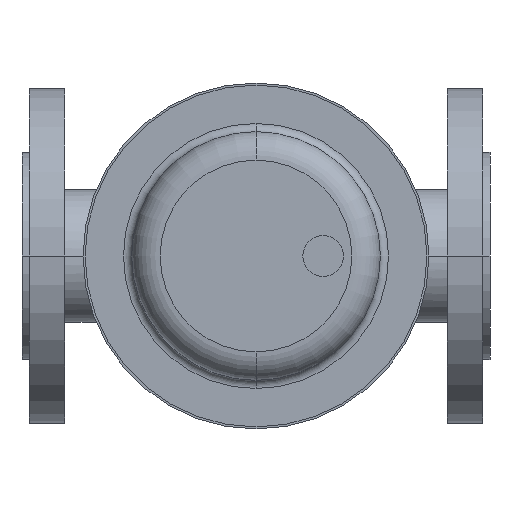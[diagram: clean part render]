
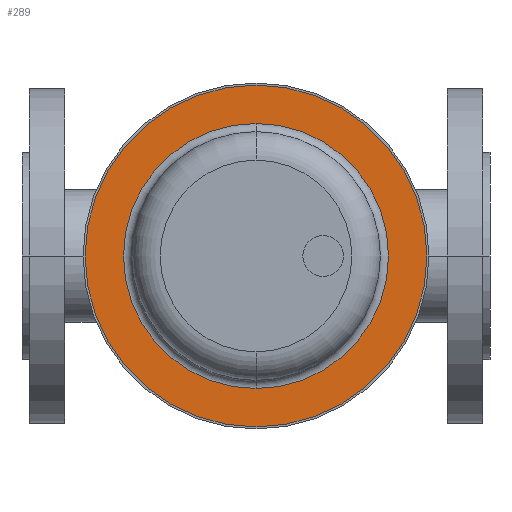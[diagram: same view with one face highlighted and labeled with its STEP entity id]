
A CAD part, front view. The second image highlights one B-rep face of the part: STEP entity #289.
In plain terms, the highlighted planar face has unit normal (0, -1, 0).
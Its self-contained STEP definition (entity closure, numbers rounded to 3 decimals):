
#289 = ADVANCED_FACE( '', ( #671, #672 ), #673, .T. );
#671 = FACE_OUTER_BOUND( '', #1070, .T. );
#672 = FACE_BOUND( '', #1071, .T. );
#673 = PLANE( '', #1072 );
#1070 = EDGE_LOOP( '', ( #2389, #2390 ) );
#1071 = EDGE_LOOP( '', ( #2391, #2392, #2393 ) );
#1072 = AXIS2_PLACEMENT_3D( '', #2394, #2395, #2396 );
#2389 = ORIENTED_EDGE( '', *, *, #2868, .F. );
#2390 = ORIENTED_EDGE( '', *, *, #2897, .F. );
#2391 = ORIENTED_EDGE( '', *, *, #2895, .T. );
#2392 = ORIENTED_EDGE( '', *, *, #2875, .T. );
#2393 = ORIENTED_EDGE( '', *, *, #2896, .T. );
#2394 = CARTESIAN_POINT( '', ( 189.563, -444.5, 0. ) );
#2395 = DIRECTION( '', ( 0., -1., 0. ) );
#2396 = DIRECTION( '', ( -1., 0., 0. ) );
#2868 = EDGE_CURVE( '', #3542, #3545, #3546, .T. );
#2875 = EDGE_CURVE( '', #3551, #3557, #3559, .T. );
#2895 = EDGE_CURVE( '', #3591, #3551, #3592, .T. );
#2896 = EDGE_CURVE( '', #3557, #3591, #3593, .T. );
#2897 = EDGE_CURVE( '', #3545, #3542, #3594, .T. );
#3542 = VERTEX_POINT( '', #4864 );
#3545 = VERTEX_POINT( '', #4868 );
#3546 = CIRCLE( '', #4869, 84. );
#3551 = VERTEX_POINT( '', #4875 );
#3557 = VERTEX_POINT( '', #4881 );
#3559 = CIRCLE( '', #4883, 65.125 );
#3591 = VERTEX_POINT( '', #4919 );
#3592 = CIRCLE( '', #4920, 65.125 );
#3593 = CIRCLE( '', #4921, 65.125 );
#3594 = CIRCLE( '', #4922, 84. );
#4864 = CARTESIAN_POINT( '', ( 199., -444.5, 0. ) );
#4868 = CARTESIAN_POINT( '', ( 31., -444.5, 0. ) );
#4869 = AXIS2_PLACEMENT_3D( '', #5792, #5793, #5794 );
#4875 = CARTESIAN_POINT( '', ( 115., -444.5, -65.125 ) );
#4881 = CARTESIAN_POINT( '', ( 115., -444.5, 65.125 ) );
#4883 = AXIS2_PLACEMENT_3D( '', #5811, #5812, #5813 );
#4919 = CARTESIAN_POINT( '', ( 180.125, -444.5, 0. ) );
#4920 = AXIS2_PLACEMENT_3D( '', #5863, #5864, #5865 );
#4921 = AXIS2_PLACEMENT_3D( '', #5866, #5867, #5868 );
#4922 = AXIS2_PLACEMENT_3D( '', #5869, #5870, #5871 );
#5792 = CARTESIAN_POINT( '', ( 115., -444.5, 0. ) );
#5793 = DIRECTION( '', ( 0., 1., 0. ) );
#5794 = DIRECTION( '', ( 1., 0., 0. ) );
#5811 = CARTESIAN_POINT( '', ( 115., -444.5, 0. ) );
#5812 = DIRECTION( '', ( 0., 1., 0. ) );
#5813 = DIRECTION( '', ( 1., 0., 0. ) );
#5863 = CARTESIAN_POINT( '', ( 115., -444.5, 0. ) );
#5864 = DIRECTION( '', ( 0., 1., 0. ) );
#5865 = DIRECTION( '', ( 1., 0., 0. ) );
#5866 = CARTESIAN_POINT( '', ( 115., -444.5, 0. ) );
#5867 = DIRECTION( '', ( 0., 1., 0. ) );
#5868 = DIRECTION( '', ( 1., 0., 0. ) );
#5869 = CARTESIAN_POINT( '', ( 115., -444.5, 0. ) );
#5870 = DIRECTION( '', ( 0., 1., 0. ) );
#5871 = DIRECTION( '', ( 1., 0., 0. ) );
